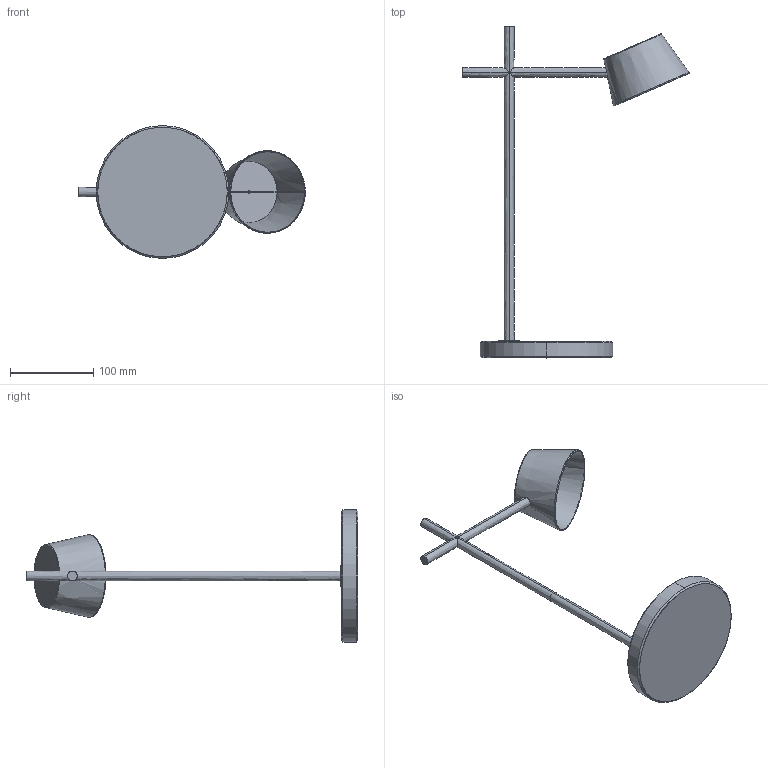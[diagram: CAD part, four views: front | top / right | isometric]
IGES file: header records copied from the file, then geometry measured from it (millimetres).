
Start section: SolidWorks IGES file using analytic representation for surfaces
Global section: file name: C:\Users\Agus\Desktop\propuestas SEPT. 2020\PAUL\S1229.IGS; native system: SolidWorks 2018; preprocessor: SolidWorks 2018; author: Agus; date: 200924.155053; units: millimetre
Bounding box: 272.79 x 399.85 x 160 mm (x, y, z)
Surface area: 110284.4 mm2 (no closed solid volume)
Topology: 0 solids, 0 shells, 41 faces, 725 edges, 723 vertices
Faces by surface type: revolution 27, bspline 14
